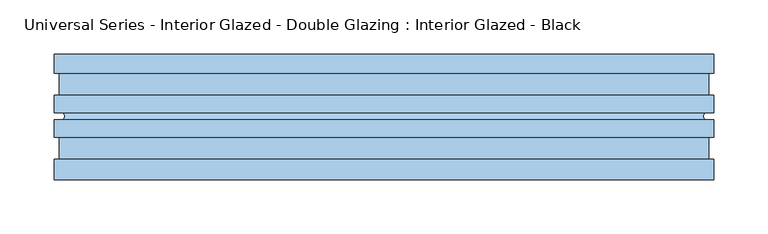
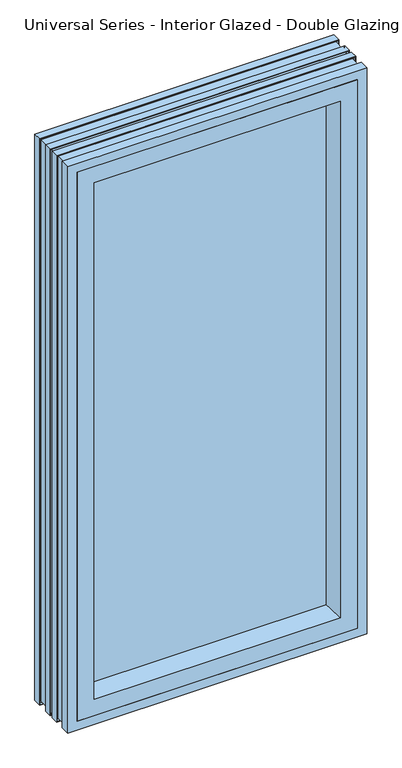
"""IFC4 building model written with IfcOpenShell, lengths in millimetres: window geometry, Universal Series - Interior Glazed - Double Glazing : Interior Glazed - Black."""

from ifc_helpers import new_model, si_unit, frame, origin, place, context, project, spatial, polyline, ellipse_curve, outline, extrude, faceted_brep, source, transform, mapped, element, save
from ifc_brep_helpers import plane_surface, revolved_surface, advanced_brep


def universal_series_interior_glazed_double_glazing_interior_bd5611e1(model_context):
    return source(origin(), model_context, "Body", "SolidModel", [
        extrude(outline(polyline([(276.225, 100.0), (276.225, 94.840625), (-276.225, 94.840625), (-276.225, 100.0), (276.225, 100.0)])), frame((0.0, 0.0, 790.575), z_axis=(0.0, 0.0, 1.0), x_axis=(1.0, 0.0, 0.0)), (0.0, 0.0, 1.0), 1162.05),
        extrude(outline(polyline([(276.225, 76.584375), (276.225, 71.425), (-276.225, 71.425), (-276.225, 76.584375), (276.225, 76.584375)])), frame((0.0, 0.0, 790.575), z_axis=(0.0, 0.0, 1.0), x_axis=(1.0, 0.0, 0.0)), (0.0, 0.0, 1.0), 1162.05),
        faceted_brep([(250.825, 30.15, 1927.225), (246.0625, 71.425, 1922.4625), (246.0625, 71.425, 820.7375), (250.825, 30.15, 815.975), (-246.0625, 71.425, 820.7375), (-250.825, 30.15, 815.975), (-252.4125, 71.425, 814.3875), (-252.4125, 71.425, 1928.8125), (252.4125, 71.425, 1928.8125), (252.4125, 71.425, 814.3875), (-246.0625, 71.425, 1922.4625), (-250.825, 30.15, 1927.225), (285.75, 30.15, 781.05), (285.75, 30.15, 1962.15), (-285.75, 30.15, 1962.15), (-285.75, 30.15, 781.05), (285.75, 31.7375, 1962.15), (285.75, 31.7375, 781.05), (-285.75, 31.7375, 781.05), (-285.75, 31.7375, 1962.15), (276.225, 31.7375, 790.575), (276.225, 31.7375, 1952.625), (-276.225, 31.7375, 1952.625), (-276.225, 31.7375, 790.575), (276.225, 50.7875, 1952.625), (276.225, 50.7875, 790.575), (-276.225, 50.7875, 790.575), (-276.225, 50.7875, 1952.625)], [[[0, 1, 2, 3]], [[3, 2, 4, 5]], [[6, 7, 8, 9], [2, 1, 10, 4]], [[5, 4, 10, 11]], [[12, 13, 14, 15], [5, 11, 0, 3]], [[16, 13, 12, 17]], [[17, 12, 15, 18]], [[18, 15, 14, 19]], [[18, 19, 16, 17], [20, 21, 22, 23]], [[24, 21, 20, 25]], [[25, 20, 23, 26]], [[26, 23, 22, 27]], [[9, 25, 26, 6]], [[8, 24, 25, 9]], [[6, 26, 27, 7]], [[11, 10, 1, 0]], [[19, 14, 13, 16]], [[27, 22, 21, 24]], [[7, 27, 24, 8]]]),
        advanced_brep(
        [(276.225, 112.7, 1952.625), (276.225, 146.0375, 1952.625), (276.225, 146.0375, 790.575), (276.225, 112.7, 790.575), (-276.225, 146.0375, 790.575), (-276.225, 112.7, 790.575), (-304.8, 146.0375, 762.0), (-304.8, 146.0375, 1981.2), (304.8, 146.0375, 1981.2), (304.8, 146.0375, 762.0), (-276.225, 146.0375, 1952.625), (-276.225, 112.7, 1952.625), (247.65, 112.7, 819.15), (247.65, 112.7, 1924.05), (-247.65, 112.7, 1924.05), (-247.65, 112.7, 819.15), (247.65, 100.0, 1924.05), (247.65, 100.0, 819.15), (-247.65, 100.0, 819.15), (-247.65, 100.0, 1924.05), (276.225, 100.0, 790.575), (276.225, 100.0, 1952.625), (-276.225, 100.0, 1952.625), (-276.225, 100.0, 790.575), (276.225, 44.4375, 1952.625), (276.225, 44.4375, 790.575), (-276.225, 44.4375, 790.575), (-276.225, 44.4375, 1952.625), (285.75, 44.4375, 781.05), (285.75, 44.4375, 1962.15), (-285.75, 44.4375, 1962.15), (-285.75, 44.4375, 781.05), (304.8, 30.15, 762.0), (304.8, 30.15, 1981.2), (-304.8, 30.15, 1981.2), (-304.8, 30.15, 762.0), (-285.75, 30.15, 781.05), (-285.75, 30.15, 1962.15), (285.75, 30.15, 1962.15), (285.75, 30.15, 781.05), (304.8, 48.8148079, 1981.2), (304.8, 48.8148079, 762.0), (-304.8, 48.8148079, 762.0), (-304.8, 48.8148079, 1981.2), (-304.8, 128.575, 762.0), (-304.8, 128.575, 1981.2), (304.8, 128.575, 1981.2), (304.8, 128.575, 762.0), (303.609375, 48.8148079, 763.190625), (303.609375, 48.8148079, 1980.009375), (-303.609375, 48.8148079, 1980.009375), (-303.609375, 48.8148079, 763.190625), (302.021875, 45.6398079, 1978.421875), (302.021875, 45.6398079, 764.778125), (-302.021875, 45.6398079, 764.778125), (-302.021875, 45.6398079, 1978.421875), (300.0375, 45.6398079, 766.7625), (300.0375, 45.6398079, 1976.4375), (-300.0375, 45.6398079, 1976.4375), (-300.0375, 45.6398079, 766.7625), (300.0375, 72.6273079, 1976.4375), (300.0375, 72.6273079, 766.7625), (-300.0375, 72.6273079, 766.7625), (-300.0375, 72.6273079, 1976.4375), (302.021875, 72.6273079, 764.778125), (302.021875, 72.6273079, 1978.421875), (-302.021875, 72.6273079, 1978.421875), (-302.021875, 72.6273079, 764.778125), (303.609375, 69.4523079, 1980.009375), (303.609375, 69.4523079, 763.190625), (-303.609375, 69.4523079, 763.190625), (-303.609375, 69.4523079, 1980.009375), (304.8, 69.4523079, 762.0), (304.8, 69.4523079, 1981.2), (-304.8, 69.4523079, 1981.2), (-304.8, 69.4523079, 762.0), (304.8, 85.3273079, 1981.2), (304.8, 85.3273079, 762.0), (-304.8, 85.3273079, 762.0), (-304.8, 85.3273079, 1981.2), (303.2125, 85.3273079, 763.5875), (303.2125, 85.3273079, 1979.6125), (-303.2125, 85.3273079, 1979.6125), (-303.2125, 85.3273079, 763.5875), (303.2125, 92.0625, 1979.6125), (303.2125, 92.0625, 763.5875), (-303.2125, 92.0625, 763.5875), (-303.2125, 92.0625, 1979.6125), (304.8, 92.0625, 762.0), (304.8, 92.0625, 1981.2), (-304.8, 92.0625, 1981.2), (-304.8, 92.0625, 762.0), (304.8, 107.9375, 1981.2), (304.8, 107.9375, 762.0), (-304.8, 107.9375, 762.0), (-304.8, 107.9375, 1981.2), (303.609375, 107.9375, 763.190625), (303.609375, 107.9375, 1980.009375), (-303.609375, 107.9375, 1980.009375), (-303.609375, 107.9375, 763.190625), (302.021875, 104.7625, 1978.421875), (302.021875, 104.7625, 764.778125), (-302.021875, 104.7625, 764.778125), (-302.021875, 104.7625, 1978.421875), (300.0375, 104.7625, 766.7625), (300.0375, 104.7625, 1976.4375), (-300.0375, 104.7625, 1976.4375), (-300.0375, 104.7625, 766.7625), (300.0375, 131.75, 1976.4375), (300.0375, 131.75, 766.7625), (-300.0375, 131.75, 766.7625), (-300.0375, 131.75, 1976.4375), (302.021875, 131.75, 764.778125), (302.021875, 131.75, 1978.421875), (-302.021875, 131.75, 1978.421875), (-302.021875, 131.75, 764.778125), (303.609375, 128.575, 1980.009375), (303.609375, 128.575, 763.190625), (-303.609375, 128.575, 763.190625), (-303.609375, 128.575, 1980.009375)],
        [
            (0, 1),
            (1, 2),
            (2, 3),
            (3, 0),
            (2, 4),
            (4, 5),
            (5, 3),
            (6, 7),
            (7, 8),
            (8, 9),
            (9, 6),
            (1, 10),
            (10, 4),
            (10, 11),
            (11, 5),
            (11, 0),
            (12, 13),
            (13, 14),
            (14, 15),
            (15, 12),
            (16, 13),
            (12, 17),
            (17, 16),
            (15, 18),
            (18, 17),
            (14, 19),
            (19, 18),
            (20, 21),
            (21, 22),
            (22, 23),
            (23, 20),
            (19, 16),
            (24, 21),
            (20, 25),
            (25, 24),
            (23, 26),
            (26, 25),
            (22, 27),
            (27, 26),
            (28, 29),
            (29, 30),
            (30, 31),
            (31, 28),
            (27, 24),
            (32, 33),
            (33, 34),
            (34, 35),
            (35, 32),
            (36, 37),
            (37, 38),
            (38, 39),
            (39, 36),
            (36, 31),
            (30, 37),
            (38, 29),
            (28, 39),
            (40, 33),
            (32, 41),
            (41, 40),
            (42, 35),
            (34, 43),
            (43, 42),
            (42, 41),
            (6, 44),
            (44, 45),
            (45, 7),
            (8, 46),
            (46, 47),
            (47, 9),
            (47, 44),
            (43, 40),
            (48, 49),
            (49, 50),
            (50, 51),
            (51, 48),
            (52, 49),
            (48, 53),
            (53, 52),
            (51, 54),
            (54, 53),
            (50, 55),
            (55, 54),
            (55, 52),
            (56, 57),
            (57, 58),
            (58, 59),
            (59, 56),
            (60, 57),
            (56, 61),
            (61, 60),
            (59, 62),
            (62, 61),
            (58, 63),
            (63, 62),
            (64, 65),
            (65, 66),
            (66, 67),
            (67, 64),
            (63, 60),
            (68, 65),
            (64, 69),
            (69, 68),
            (67, 70),
            (70, 69),
            (66, 71),
            (71, 70),
            (72, 73),
            (73, 74),
            (74, 75),
            (75, 72),
            (71, 68),
            (76, 73),
            (72, 77),
            (77, 76),
            (75, 78),
            (78, 77),
            (74, 79),
            (79, 78),
            (79, 76),
            (80, 81),
            (81, 82),
            (82, 83),
            (83, 80),
            (84, 81, ellipse_curve(frame((299.844904, 88.694904, 1976.244904), z_axis=(-0.7071067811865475, 0.0, 0.7071067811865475), x_axis=(-0.7071067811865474, 0.0, -0.7071067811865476)), 6.7351921, 4.7625)),
            (80, 85, ellipse_curve(frame((299.844904, 88.694904, 766.955096), z_axis=(-0.7071067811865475, 0.0, -0.7071067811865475), x_axis=(0.7071067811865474, 0.0, -0.7071067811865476)), 6.7351921, 4.7625)),
            (85, 84),
            (83, 86, ellipse_curve(frame((-299.844904, 88.694904, 766.955096), z_axis=(-0.7071067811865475, 0.0, 0.7071067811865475), x_axis=(-0.7071067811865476, 0.0, -0.7071067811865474)), 6.7351921, 4.7625)),
            (86, 85),
            (82, 87, ellipse_curve(frame((-299.844904, 88.694904, 1976.244904), z_axis=(0.7071067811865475, 0.0, 0.7071067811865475), x_axis=(-0.7071067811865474, 0.0, 0.7071067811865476)), 6.7351921, 4.7625)),
            (87, 86),
            (88, 89),
            (89, 90),
            (90, 91),
            (91, 88),
            (87, 84),
            (92, 89),
            (88, 93),
            (93, 92),
            (91, 94),
            (94, 93),
            (90, 95),
            (95, 94),
            (95, 92),
            (96, 97),
            (97, 98),
            (98, 99),
            (99, 96),
            (100, 97),
            (96, 101),
            (101, 100),
            (99, 102),
            (102, 101),
            (98, 103),
            (103, 102),
            (103, 100),
            (104, 105),
            (105, 106),
            (106, 107),
            (107, 104),
            (108, 105),
            (104, 109),
            (109, 108),
            (107, 110),
            (110, 109),
            (106, 111),
            (111, 110),
            (112, 113),
            (113, 114),
            (114, 115),
            (115, 112),
            (111, 108),
            (116, 113),
            (112, 117),
            (117, 116),
            (115, 118),
            (118, 117),
            (114, 119),
            (119, 118),
            (46, 45),
            (119, 116),
        ],
        [
            plane_surface(frame((276.225, 146.0375, 1952.625), z_axis=(-1.0, 0.0, 0.0), x_axis=(0.0, 0.0, -1.0))),
            plane_surface(frame((276.225, 146.0375, 790.575), z_axis=(0.0, 0.0, 1.0), x_axis=(-1.0, 0.0, 0.0))),
            plane_surface(frame((304.8, 146.0375, 1981.2), z_axis=(0.0, 1.0, 0.0), x_axis=(0.0, 0.0, -1.0))),
            plane_surface(frame((-276.225, 146.0375, 790.575), z_axis=(1.0, 0.0, 0.0), x_axis=(0.0, 0.0, 1.0))),
            plane_surface(frame((276.225, 112.7, 1952.625), z_axis=(0.0, 1.0, 0.0), x_axis=(0.0, 0.0, -1.0))),
            plane_surface(frame((247.65, 112.7, 1924.05), z_axis=(-1.0, 0.0, 0.0), x_axis=(0.0, 0.0, -1.0))),
            plane_surface(frame((247.65, 112.7, 819.15), z_axis=(0.0, 0.0, 1.0), x_axis=(-1.0, 0.0, 0.0))),
            plane_surface(frame((-247.65, 112.7, 819.15), z_axis=(1.0, 0.0, 0.0), x_axis=(0.0, 0.0, 1.0))),
            plane_surface(frame((247.65, 100.0, 1924.05), z_axis=(0.0, -1.0, 0.0), x_axis=(0.0, 0.0, -1.0))),
            plane_surface(frame((276.225, 100.0, 1952.625), z_axis=(-1.0, 0.0, 0.0), x_axis=(0.0, 0.0, -1.0))),
            plane_surface(frame((276.225, 100.0, 790.575), z_axis=(0.0, 0.0, 1.0), x_axis=(-1.0, 0.0, 0.0))),
            plane_surface(frame((-276.225, 100.0, 790.575), z_axis=(1.0, 0.0, 0.0), x_axis=(0.0, 0.0, 1.0))),
            plane_surface(frame((276.225, 44.4375, 1952.625), z_axis=(0.0, -1.0, 0.0), x_axis=(0.0, 0.0, -1.0))),
            plane_surface(frame((285.75, 30.15, 1962.15), z_axis=(0.0, -1.0, 0.0), x_axis=(0.0, 0.0, -1.0))),
            plane_surface(frame((-285.75, 44.4375, 781.05), z_axis=(1.0, 0.0, 0.0), x_axis=(0.0, 0.0, 1.0))),
            plane_surface(frame((285.75, 44.4375, 1962.15), z_axis=(-1.0, 0.0, 0.0), x_axis=(0.0, 0.0, -1.0))),
            plane_surface(frame((285.75, 44.4375, 781.05), z_axis=(0.0, 0.0, 1.0), x_axis=(-1.0, 0.0, 0.0))),
            plane_surface(frame((304.8, 30.15, 1981.2), z_axis=(1.0, 0.0, 0.0), x_axis=(0.0, 0.0, -1.0))),
            plane_surface(frame((-304.8, 30.15, 762.0), z_axis=(-1.0, 0.0, 0.0), x_axis=(0.0, 0.0, 1.0))),
            plane_surface(frame((304.8, 30.15, 762.0), z_axis=(0.0, 0.0, -1.0), x_axis=(-1.0, 0.0, 0.0))),
            plane_surface(frame((-304.8, 128.575, 762.0), z_axis=(-1.0, 0.0, 0.0), x_axis=(0.0, 0.0, 1.0))),
            plane_surface(frame((304.8, 128.575, 1981.2), z_axis=(1.0, 0.0, 0.0), x_axis=(0.0, 0.0, -1.0))),
            plane_surface(frame((304.8, 128.575, 762.0), z_axis=(0.0, 0.0, -1.0), x_axis=(-1.0, 0.0, 0.0))),
            plane_surface(frame((304.8, 48.8148079, 1981.2), z_axis=(0.0, 1.0, 0.0), x_axis=(0.0, 0.0, -1.0))),
            plane_surface(frame((303.609375, 48.8148079, 1980.009375), z_axis=(-0.8944271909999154, 0.4472135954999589, 0.0), x_axis=(0.0, 0.0, -1.0))),
            plane_surface(frame((303.609375, 48.8148079, 763.190625), z_axis=(0.0, 0.44721359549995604, 0.8944271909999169), x_axis=(-1.0, 0.0, 0.0))),
            plane_surface(frame((-303.609375, 48.8148079, 763.190625), z_axis=(0.8944271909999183, 0.44721359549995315, 0.0), x_axis=(0.0, 0.0, 1.0))),
            plane_surface(frame((302.021875, 45.6398079, 1978.421875), z_axis=(0.0, 1.0, 0.0), x_axis=(0.0, 0.0, -1.0))),
            plane_surface(frame((300.0375, 45.6398079, 1976.4375), z_axis=(1.0, 0.0, 0.0), x_axis=(0.0, 0.0, -1.0))),
            plane_surface(frame((300.0375, 45.6398079, 766.7625), z_axis=(0.0, 0.0, -1.0), x_axis=(-1.0, 0.0, 0.0))),
            plane_surface(frame((-300.0375, 45.6398079, 766.7625), z_axis=(-1.0, 0.0, 0.0), x_axis=(0.0, 0.0, 1.0))),
            plane_surface(frame((300.0375, 72.6273079, 1976.4375), z_axis=(0.0, -1.0, 0.0), x_axis=(0.0, 0.0, -1.0))),
            plane_surface(frame((302.021875, 72.6273079, 1978.421875), z_axis=(-0.8944271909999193, -0.4472135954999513, 0.0), x_axis=(0.0, 0.0, -1.0))),
            plane_surface(frame((302.021875, 72.6273079, 764.778125), z_axis=(0.0, -0.44721359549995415, 0.8944271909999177), x_axis=(-1.0, 0.0, 0.0))),
            plane_surface(frame((-302.021875, 72.6273079, 764.778125), z_axis=(0.8944271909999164, -0.4472135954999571, 0.0), x_axis=(0.0, 0.0, 1.0))),
            plane_surface(frame((303.609375, 69.4523079, 1980.009375), z_axis=(0.0, -1.0, 0.0), x_axis=(0.0, 0.0, -1.0))),
            plane_surface(frame((304.8, 69.4523079, 1981.2), z_axis=(1.0, 0.0, 0.0), x_axis=(0.0, 0.0, -1.0))),
            plane_surface(frame((304.8, 69.4523079, 762.0), z_axis=(0.0, 0.0, -1.0), x_axis=(-1.0, 0.0, 0.0))),
            plane_surface(frame((-304.8, 69.4523079, 762.0), z_axis=(-1.0, 0.0, 0.0), x_axis=(0.0, 0.0, 1.0))),
            plane_surface(frame((304.8, 85.3273079, 1981.2), z_axis=(0.0, 1.0, 0.0), x_axis=(0.0, 0.0, -1.0))),
            revolved_surface(polyline([(299.844904, 83.93240399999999, 762.1925959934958), (299.844904, 83.93240399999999, 1981.007404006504)]), (299.844904, 88.694904, 1981.2), (0.0, 0.0, -1.0)),
            revolved_surface(polyline([(-304.60740400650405, 83.93240399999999, 766.955096), (304.60740400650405, 83.93240399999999, 766.955096)]), (304.8, 88.694904, 766.955096), (-1.0, 0.0, 0.0)),
            revolved_surface(polyline([(-299.844904, 83.93240399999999, 1981.007404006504), (-299.844904, 83.93240399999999, 762.192595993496)]), (-299.844904, 88.694904, 762.0), (0.0, 0.0, 1.0)),
            plane_surface(frame((303.2125, 92.0625, 1979.6125), z_axis=(0.0, -1.0, 0.0), x_axis=(0.0, 0.0, -1.0))),
            plane_surface(frame((304.8, 92.0625, 1981.2), z_axis=(1.0, 0.0, 0.0), x_axis=(0.0, 0.0, -1.0))),
            plane_surface(frame((304.8, 92.0625, 762.0), z_axis=(0.0, 0.0, -1.0), x_axis=(-1.0, 0.0, 0.0))),
            plane_surface(frame((-304.8, 92.0625, 762.0), z_axis=(-1.0, 0.0, 0.0), x_axis=(0.0, 0.0, 1.0))),
            plane_surface(frame((304.8, 107.9375, 1981.2), z_axis=(0.0, 1.0, 0.0), x_axis=(0.0, 0.0, -1.0))),
            plane_surface(frame((303.609375, 107.9375, 1980.009375), z_axis=(-0.8944271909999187, 0.44721359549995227, 0.0), x_axis=(0.0, 0.0, -1.0))),
            plane_surface(frame((303.609375, 107.9375, 763.190625), z_axis=(0.0, 0.4472135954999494, 0.8944271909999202), x_axis=(-1.0, 0.0, 0.0))),
            plane_surface(frame((-303.609375, 107.9375, 763.190625), z_axis=(0.8944271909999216, 0.4472135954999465, 0.0), x_axis=(0.0, 0.0, 1.0))),
            plane_surface(frame((302.021875, 104.7625, 1978.421875), z_axis=(0.0, 1.0, 0.0), x_axis=(0.0, 0.0, -1.0))),
            plane_surface(frame((300.0375, 104.7625, 1976.4375), z_axis=(1.0, 0.0, 0.0), x_axis=(0.0, 0.0, -1.0))),
            plane_surface(frame((300.0375, 104.7625, 766.7625), z_axis=(0.0, 0.0, -1.0), x_axis=(-1.0, 0.0, 0.0))),
            plane_surface(frame((-300.0375, 104.7625, 766.7625), z_axis=(-1.0, 0.0, 0.0), x_axis=(0.0, 0.0, 1.0))),
            plane_surface(frame((300.0375, 131.75, 1976.4375), z_axis=(0.0, -1.0, 0.0), x_axis=(0.0, 0.0, -1.0))),
            plane_surface(frame((302.021875, 131.75, 1978.421875), z_axis=(-0.894427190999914, -0.44721359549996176, 0.0), x_axis=(0.0, 0.0, -1.0))),
            plane_surface(frame((302.021875, 131.75, 764.778125), z_axis=(0.0, -0.44721359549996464, 0.8944271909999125), x_axis=(-1.0, 0.0, 0.0))),
            plane_surface(frame((-302.021875, 131.75, 764.778125), z_axis=(0.8944271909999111, -0.44721359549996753, 0.0), x_axis=(0.0, 0.0, 1.0))),
            plane_surface(frame((303.609375, 128.575, 1980.009375), z_axis=(0.0, -1.0, 0.0), x_axis=(0.0, 0.0, -1.0))),
            plane_surface(frame((-276.225, 146.0375, 1952.625), z_axis=(0.0, 0.0, -1.0), x_axis=(1.0, 0.0, 0.0))),
            plane_surface(frame((-247.65, 112.7, 1924.05), z_axis=(0.0, 0.0, -1.0), x_axis=(1.0, 0.0, 0.0))),
            plane_surface(frame((-276.225, 100.0, 1952.625), z_axis=(0.0, 0.0, -1.0), x_axis=(1.0, 0.0, 0.0))),
            plane_surface(frame((-285.75, 44.4375, 1962.15), z_axis=(0.0, 0.0, -1.0), x_axis=(1.0, 0.0, 0.0))),
            plane_surface(frame((-304.8, 30.15, 1981.2), z_axis=(0.0, 0.0, 1.0), x_axis=(1.0, 0.0, 0.0))),
            plane_surface(frame((-303.609375, 48.8148079, 1980.009375), z_axis=(0.0, 0.44721359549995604, -0.8944271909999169), x_axis=(1.0, 0.0, 0.0))),
            plane_surface(frame((-300.0375, 45.6398079, 1976.4375), z_axis=(0.0, 0.0, 1.0), x_axis=(1.0, 0.0, 0.0))),
            plane_surface(frame((-302.021875, 72.6273079, 1978.421875), z_axis=(0.0, -0.4472135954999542, -0.8944271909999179), x_axis=(1.0, 0.0, 0.0))),
            plane_surface(frame((-304.8, 69.4523079, 1981.2), z_axis=(0.0, 0.0, 1.0), x_axis=(1.0, 0.0, 0.0))),
            revolved_surface(polyline([(304.60740400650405, 83.93240399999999, 1976.244904), (-304.60740400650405, 83.93240399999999, 1976.244904)]), (-304.8, 88.694904, 1976.244904), (1.0, 0.0, 0.0)),
            plane_surface(frame((-304.8, 92.0625, 1981.2), z_axis=(0.0, 0.0, 1.0), x_axis=(1.0, 0.0, 0.0))),
            plane_surface(frame((-303.609375, 107.9375, 1980.009375), z_axis=(0.0, 0.4472135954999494, -0.8944271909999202), x_axis=(1.0, 0.0, 0.0))),
            plane_surface(frame((-300.0375, 104.7625, 1976.4375), z_axis=(0.0, 0.0, 1.0), x_axis=(1.0, 0.0, 0.0))),
            plane_surface(frame((-302.021875, 131.75, 1978.421875), z_axis=(0.0, -0.44721359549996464, -0.8944271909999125), x_axis=(1.0, 0.0, 0.0))),
            plane_surface(frame((-304.8, 128.575, 1981.2), z_axis=(0.0, 0.0, 1.0), x_axis=(1.0, 0.0, 0.0))),
        ],
        [
            (0, [[1, 2, 3, 4]]),
            (1, [[-3, 5, 6, 7]]),
            (2, [[8, 9, 10, 11], [-2, 12, 13, -5]]),
            (3, [[-6, -13, 14, 15]]),
            (4, [[-15, 16, -4, -7], [17, 18, 19, 20]]),
            (5, [[21, -17, 22, 23]]),
            (6, [[-22, -20, 24, 25]]),
            (7, [[-24, -19, 26, 27]]),
            (8, [[28, 29, 30, 31], [-27, 32, -23, -25]]),
            (9, [[33, -28, 34, 35]]),
            (10, [[-34, -31, 36, 37]]),
            (11, [[-36, -30, 38, 39]]),
            (12, [[40, 41, 42, 43], [-39, 44, -35, -37]]),
            (13, [[45, 46, 47, 48], [49, 50, 51, 52]]),
            (14, [[53, -42, 54, -49]]),
            (15, [[55, -40, 56, -51]]),
            (16, [[-56, -43, -53, -52]]),
            (17, [[57, -45, 58, 59]]),
            (18, [[60, -47, 61, 62]]),
            (19, [[-58, -48, -60, 63]]),
            (20, [[64, 65, 66, -8]]),
            (21, [[67, 68, 69, -10]]),
            (22, [[-69, 70, -64, -11]]),
            (23, [[-62, 71, -59, -63], [72, 73, 74, 75]]),
            (24, [[76, -72, 77, 78]]),
            (25, [[-77, -75, 79, 80]]),
            (26, [[-79, -74, 81, 82]]),
            (27, [[-82, 83, -78, -80], [84, 85, 86, 87]]),
            (28, [[88, -84, 89, 90]]),
            (29, [[-89, -87, 91, 92]]),
            (30, [[-91, -86, 93, 94]]),
            (31, [[95, 96, 97, 98], [-94, 99, -90, -92]]),
            (32, [[100, -95, 101, 102]]),
            (33, [[-101, -98, 103, 104]]),
            (34, [[-103, -97, 105, 106]]),
            (35, [[107, 108, 109, 110], [-106, 111, -102, -104]]),
            (36, [[112, -107, 113, 114]]),
            (37, [[-113, -110, 115, 116]]),
            (38, [[-115, -109, 117, 118]]),
            (39, [[-118, 119, -114, -116], [120, 121, 122, 123]]),
            (40, [[124, -120, 125, 126]]),
            (41, [[-125, -123, 127, 128]]),
            (42, [[-127, -122, 129, 130]]),
            (43, [[131, 132, 133, 134], [-130, 135, -126, -128]]),
            (44, [[136, -131, 137, 138]]),
            (45, [[-137, -134, 139, 140]]),
            (46, [[-139, -133, 141, 142]]),
            (47, [[-142, 143, -138, -140], [144, 145, 146, 147]]),
            (48, [[148, -144, 149, 150]]),
            (49, [[-149, -147, 151, 152]]),
            (50, [[-151, -146, 153, 154]]),
            (51, [[-154, 155, -150, -152], [156, 157, 158, 159]]),
            (52, [[160, -156, 161, 162]]),
            (53, [[-161, -159, 163, 164]]),
            (54, [[-163, -158, 165, 166]]),
            (55, [[167, 168, 169, 170], [-166, 171, -162, -164]]),
            (56, [[172, -167, 173, 174]]),
            (57, [[-173, -170, 175, 176]]),
            (58, [[-175, -169, 177, 178]]),
            (59, [[-68, 179, -65, -70], [-178, 180, -174, -176]]),
            (60, [[-14, -12, -1, -16]]),
            (61, [[-26, -18, -21, -32]]),
            (62, [[-38, -29, -33, -44]]),
            (63, [[-54, -41, -55, -50]]),
            (64, [[-61, -46, -57, -71]]),
            (65, [[-81, -73, -76, -83]]),
            (66, [[-93, -85, -88, -99]]),
            (67, [[-105, -96, -100, -111]]),
            (68, [[-117, -108, -112, -119]]),
            (69, [[-129, -121, -124, -135]]),
            (70, [[-141, -132, -136, -143]]),
            (71, [[-153, -145, -148, -155]]),
            (72, [[-165, -157, -160, -171]]),
            (73, [[-177, -168, -172, -180]]),
            (74, [[-66, -179, -67, -9]]),
        ],
    ),
    ])


if __name__ == "__main__":
    model = new_model("IFC4")
    model_context = context("Model", 3, world=origin())
    ifc_project = project(units=[si_unit("LENGTHUNIT", "METRE", prefix="MILLI")], contexts=[model_context])
    site = spatial("IfcSite", under=ifc_project)
    building = spatial("IfcBuilding", under=site)
    placement = place(None, origin())
    universal_series_interior_glazed_double_glazing_interior_shape = universal_series_interior_glazed_double_glazing_interior_bd5611e1(model_context)
    element("IfcWindow", 1, ObjectType="Universal Series - Interior Glazed - Double Glazing : Interior Glazed - Black", at=placement, inside=building, context=model_context, shape_type="MappedRepresentation", body=[
        mapped(universal_series_interior_glazed_double_glazing_interior_shape, transform((0.0, 0.0, 0.0), x_axis=(1.0, 0.0, 0.0), y_axis=(0.0, 1.0, 0.0), z_axis=(0.0, 0.0, 1.0))),
    ])
    save(model, "model.ifc")
